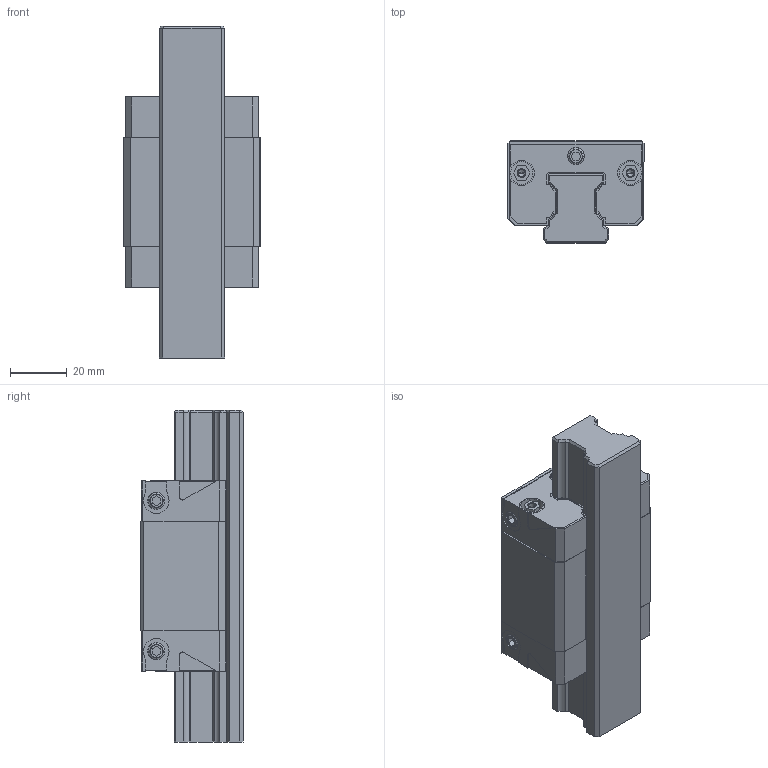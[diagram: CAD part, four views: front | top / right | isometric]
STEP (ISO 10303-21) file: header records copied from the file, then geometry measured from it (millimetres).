
FILE_DESCRIPTION((''),'2;1');
FILE_NAME('R1662_SIZE25_ASM','2020-04-16T04:08:18',('ac91sw'),(''),'CREO PARAMETRIC BY PTC INC, 2018420','CREO PARAMETRIC BY PTC INC, 2018420','');
FILE_SCHEMA(('AUTOMOTIVE_DESIGN { 1 0 10303 214 1 1 1 1 }'));
Length unit declared in the file: millimetre
Products named in the file (6): R1662_SIZE25_SKEL; R201020131; R200120102_Z; R343706101_Z; R1662_SIZE25_PSF; R1662_SIZE25_ASM
Assembly tree (11 placements, depth 2):
  R1662_SIZE25_ASM
    R1662_SIZE25_SKEL
    R201020131
    R200120102_Z  x2
    R343706101_Z  x6
    R1662_SIZE25_PSF
Bounding box: 48 x 36 x 117 mm (x, y, z)
Volume: 113052.7 mm3; surface area: 38270.5 mm2
Topology: 10 solids, 22 shells, 474 faces, 1224 edges, 780 vertices
Faces by surface type: plane 288, cylinder 130, cone 56
Entity records: 12938 total; most frequent: CARTESIAN_POINT 1579, DIRECTION 1372, ORIENTED_EDGE 1312, EDGE_CURVE 666, PROPERTY_DEFINITION 547, REPRESENTATION 540, PROPERTY_DEFINITION_REPRESENTATION 540, VECTOR 498
